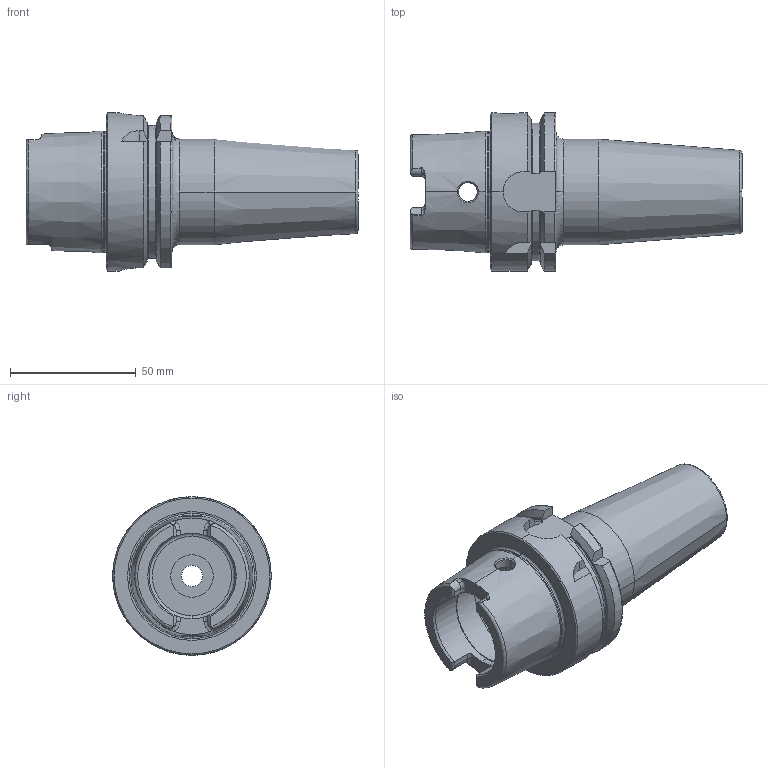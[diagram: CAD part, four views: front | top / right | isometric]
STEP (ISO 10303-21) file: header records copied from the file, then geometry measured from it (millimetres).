
FILE_DESCRIPTION (( 'STEP AP214' ), '1' );
FILE_NAME ('04-0490.STEP', '2021-08-03T19:13:16', ( '' ), ( '' ), 'SwSTEP 2.0', 'SolidWorks 2020', '' );
FILE_SCHEMA (( 'AUTOMOTIVE_DESIGN' ));
Length unit declared in the file: inch
Products named in the file (1): 04-0490
Bounding box: 132 x 63 x 63 mm (x, y, z)
Volume: 149427.5 mm3; surface area: 34630 mm2
Topology: 1 solids, 1 shells, 153 faces, 409 edges, 260 vertices
Faces by surface type: cylinder 49, bspline 41, plane 41, cone 22
Entity records: 8389 total; most frequent: CARTESIAN_POINT 4822, ORIENTED_EDGE 818, DIRECTION 656, EDGE_CURVE 409, AXIS2_PLACEMENT_3D 264, VERTEX_POINT 260, EDGE_LOOP 161, ADVANCED_FACE 153
